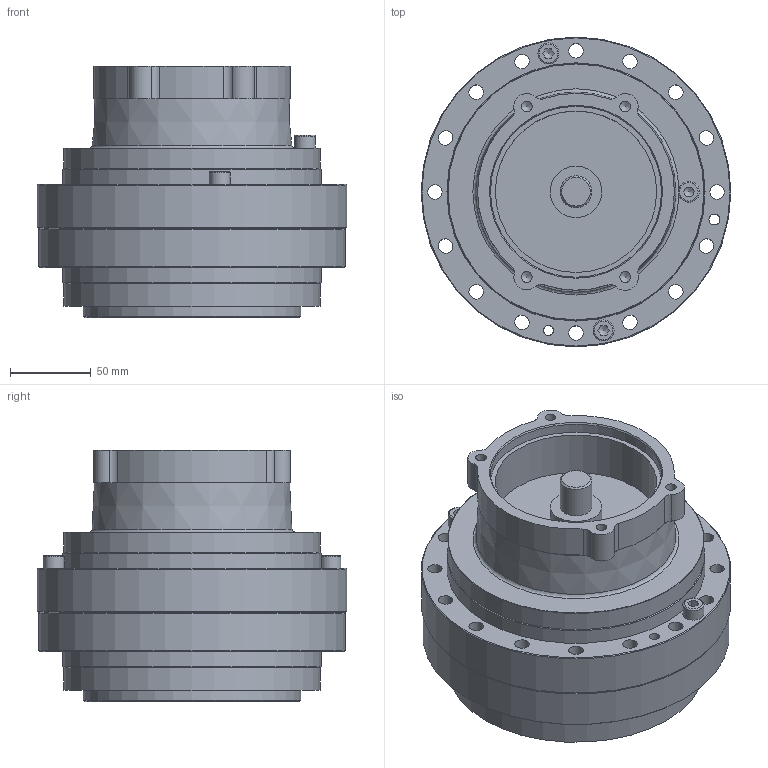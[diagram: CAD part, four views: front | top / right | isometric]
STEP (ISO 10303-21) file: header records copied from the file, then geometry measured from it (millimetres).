
FILE_DESCRIPTION((''),'2;1');
FILE_NAME('I:\MJ JOBS\Nabtesco\CAD Files\RD-E Models\RD-040E.stp','2005-10-18T14:12:59',('Jeff Miles'),(''),'Autodesk Inventor 10','Autodesk Inventor 10','');
FILE_SCHEMA(('AUTOMOTIVE_DESIGN { 1 0 10303 214 1 1 1 1 }'));
Length unit declared in the file: millimetre
Products named in the file (6): RD-040E; RD-040E1_1; RD-040E3; RD-040E4; RD-040E5; ISO 4762  M6 x 16
Assembly tree (5 placements, depth 2):
  RD-040E
    RD-040E1_1
    RD-040E3
    RD-040E4
    RD-040E5
    ISO 4762  M6 x 16
Bounding box: 192 x 192 x 155.8 mm (x, y, z)
Volume: 2757701.9 mm3; surface area: 184368.4 mm2
Topology: 5 solids, 5 shells, 170 faces, 426 edges, 282 vertices
Faces by surface type: bspline 61, plane 49, cylinder 36, cone 20, torus 4
Full cylindrical faces by diameter (mm): 6 x1, 8 x3, 10 x1, 13 x3, 19.75 x1, 32 x1, 50 x1, 100 x1, 106 x1, 135 x1, 159 x2, 160 x2, 190 x1, 192 x1
Entity records: 5083 total; most frequent: CARTESIAN_POINT 1759, DIRECTION 648, ORIENTED_EDGE 520, EDGE_LOOP 330, AXIS2_PLACEMENT_3D 292, EDGE_CURVE 260, VERTEX_POINT 220, CIRCLE 172
